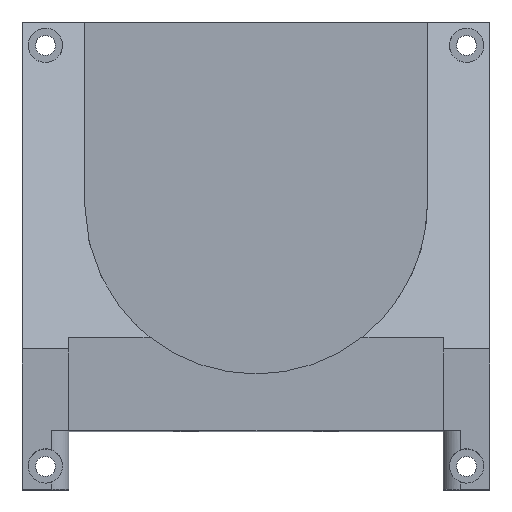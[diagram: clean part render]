
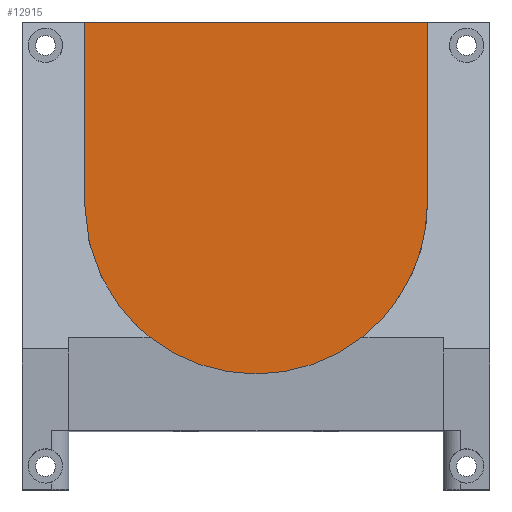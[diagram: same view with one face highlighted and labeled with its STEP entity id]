
A CAD part, top view. The second image highlights one B-rep face of the part: STEP entity #12915.
In plain terms, the highlighted planar face has unit normal (0, 0, 1).
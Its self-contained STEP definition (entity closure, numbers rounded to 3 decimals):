
#666=DIRECTION('',(0.,-1.,0.));
#667=VECTOR('',#666,29.464);
#668=CARTESIAN_POINT('',(-66.04,0.,34.925));
#669=LINE('',#668,#667);
#670=DIRECTION('',(-1.,0.,0.));
#671=VECTOR('',#670,55.88);
#672=CARTESIAN_POINT('',(-10.16,0.,34.925));
#673=LINE('',#672,#671);
#674=DIRECTION('',(0.,1.,0.));
#675=VECTOR('',#674,29.464);
#676=CARTESIAN_POINT('',(-10.16,-29.464,34.925));
#677=LINE('',#676,#675);
#678=CARTESIAN_POINT('',(-38.1,-29.464,34.925));
#679=DIRECTION('',(0.,0.,1.));
#680=DIRECTION('',(0.,-1.,0.));
#681=AXIS2_PLACEMENT_3D('',#678,#679,#680);
#683=CARTESIAN_POINT('',(-38.1,-29.464,34.925));
#684=DIRECTION('',(0.,0.,1.));
#685=DIRECTION('',(-1.,0.,0.));
#686=AXIS2_PLACEMENT_3D('',#683,#684,#685);
#11525=CARTESIAN_POINT('',(-66.04,-29.464,34.925));
#11527=VERTEX_POINT('',#11525);
#11609=CARTESIAN_POINT('',(-10.16,0.,34.925));
#11610=VERTEX_POINT('',#11609);
#11764=CARTESIAN_POINT('',(-66.04,0.,34.925));
#11765=VERTEX_POINT('',#11764);
#11808=CARTESIAN_POINT('',(-10.16,-29.464,34.925));
#11809=VERTEX_POINT('',#11808);
#11814=CARTESIAN_POINT('',(-38.1,-57.404,34.925));
#11815=VERTEX_POINT('',#11814);
#12903=CARTESIAN_POINT('',(-38.1,-29.464,34.925));
#12904=DIRECTION('',(0.,0.,-1.));
#12905=DIRECTION('',(0.,1.,0.));
#12906=AXIS2_PLACEMENT_3D('',#12903,#12904,#12905);
#12907=PLANE('',#12906);
#12908=ORIENTED_EDGE('',*,*,#12866,.F.);
#12909=ORIENTED_EDGE('',*,*,#12884,.F.);
#12910=ORIENTED_EDGE('',*,*,#12895,.F.);
#12911=ORIENTED_EDGE('',*,*,#12848,.F.);
#12912=ORIENTED_EDGE('',*,*,#12846,.F.);
#12913=EDGE_LOOP('',(#12908,#12909,#12910,#12911,#12912));
#12914=FACE_OUTER_BOUND('',#12913,.F.);
#12915=ADVANCED_FACE('',(#12914),#12907,.F.);
#682=CIRCLE('',#681,27.94);
#687=CIRCLE('',#686,27.94);
#12846=EDGE_CURVE('',#11527,#11815,#687,.T.);
#12848=EDGE_CURVE('',#11815,#11809,#682,.T.);
#12866=EDGE_CURVE('',#11765,#11527,#669,.T.);
#12884=EDGE_CURVE('',#11610,#11765,#673,.T.);
#12895=EDGE_CURVE('',#11809,#11610,#677,.T.);
